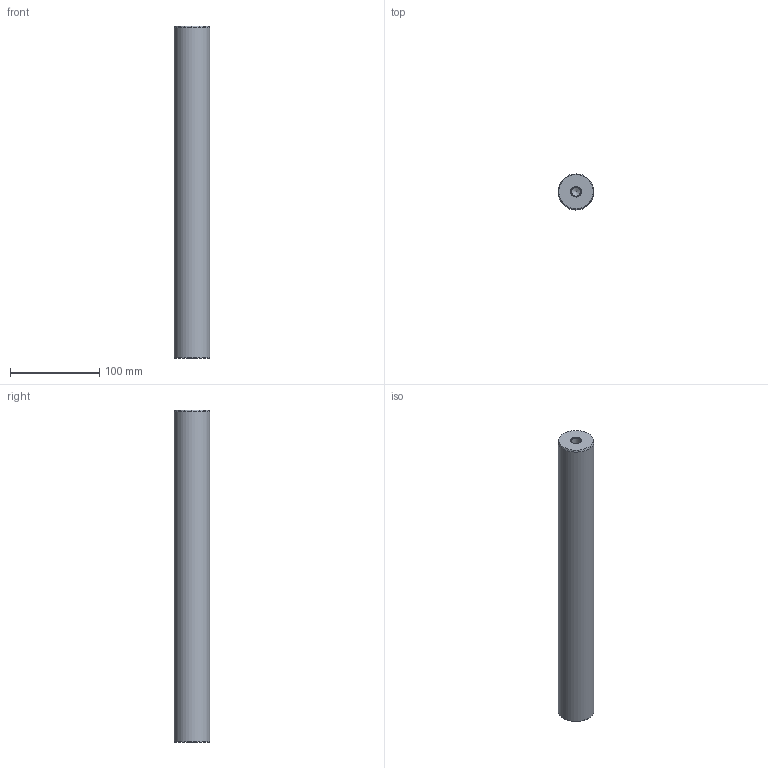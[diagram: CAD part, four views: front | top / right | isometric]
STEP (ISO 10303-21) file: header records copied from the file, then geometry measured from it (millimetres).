
FILE_DESCRIPTION( ( 'STEP AP214' ), '1' );
FILE_NAME( 'U:/Etudes/Top Solid/BIBLIO 3D AVM/STEP/G_GUIDAGE/Accessoires/Colonnes/Ø40x373.step', '2007-06-18T12:29:49', ( ' ' ), ( ' ' ), 'XStep 1.0', ' ', ' ' );
FILE_SCHEMA( ( 'automotive_design' ) );
Length unit declared in the file: metre
Products named in the file (1): 1
Bounding box: 40 x 40 x 373 mm (x, y, z)
Volume: 463366.7 mm3; surface area: 51267.5 mm2
Topology: 1 solids, 1 shells, 13 faces, 27 edges, 16 vertices
Faces by surface type: cone 6, cylinder 5, plane 2
Full cylindrical faces by diameter (mm): 10.106 x4, 40 x1
Entity records: 382 total; most frequent: DIRECTION 52, CARTESIAN_POINT 40, AXIS2_PLACEMENT_3D 26, EDGE_LOOP 24, ORIENTED_EDGE 24, FACE_OUTER_BOUND 18, VERTEX_POINT 14, STYLED_ITEM 13
